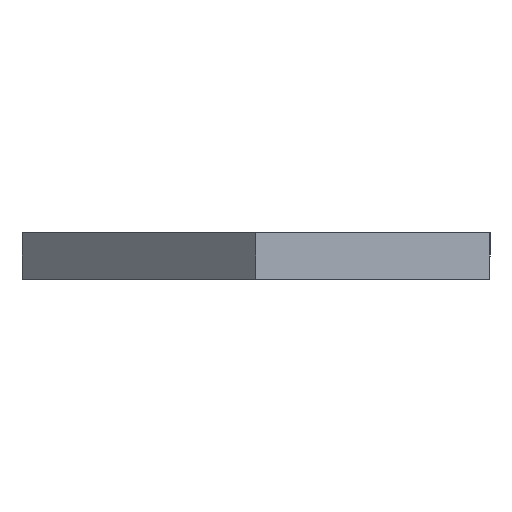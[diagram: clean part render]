
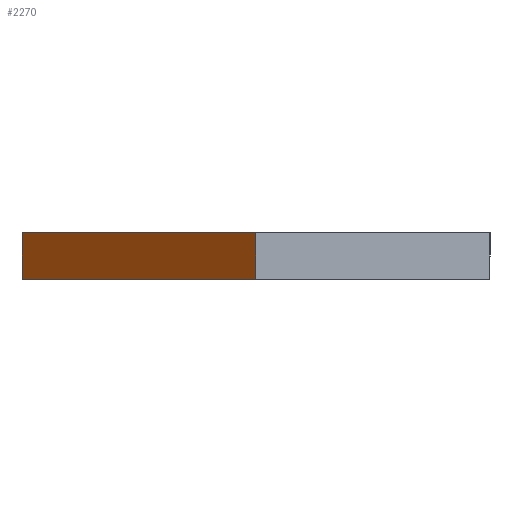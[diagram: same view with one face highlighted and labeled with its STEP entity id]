
A CAD part, left-side view. The second image highlights one B-rep face of the part: STEP entity #2270.
In plain terms, the highlighted planar face has unit normal (-0.707, 0.707, 0).
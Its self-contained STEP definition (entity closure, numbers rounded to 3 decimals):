
#18 = EDGE_CURVE ( 'NONE', #475, #426, #1946, .T. ) ;
#163 = EDGE_CURVE ( 'NONE', #392, #426, #1937, .T. ) ;
#166 = EDGE_CURVE ( 'NONE', #392, #473, #1932, .T. ) ;
#255 = LINE ( 'NONE', #1628, #281 ) ;
#281 = VECTOR ( 'NONE', #1627, 1000. ) ;
#313 = EDGE_LOOP ( 'NONE', ( #750, #798, #784, #776 ) ) ;
#392 = VERTEX_POINT ( 'NONE', #1558 ) ;
#426 = VERTEX_POINT ( 'NONE', #1500 ) ;
#473 = VERTEX_POINT ( 'NONE', #1610 ) ;
#475 = VERTEX_POINT ( 'NONE', #1567 ) ;
#750 = ORIENTED_EDGE ( 'NONE', *, *, #166, .T. ) ;
#776 = ORIENTED_EDGE ( 'NONE', *, *, #163, .F. ) ;
#784 = ORIENTED_EDGE ( 'NONE', *, *, #18, .T. ) ;
#798 = ORIENTED_EDGE ( 'NONE', *, *, #2172, .T. ) ;
#992 = FACE_OUTER_BOUND ( 'NONE', #313, .T. ) ;
#1084 = CARTESIAN_POINT ( 'NONE',  ( -118.694, 0., 0. ) ) ;
#1088 = DIRECTION ( 'NONE',  ( 0., 0., 1. ) ) ;
#1391 = DIRECTION ( 'NONE',  ( -0.707, -0.707, 0. ) ) ;
#1415 = CARTESIAN_POINT ( 'NONE',  ( -118.694, 0., 2. ) ) ;
#1438 = DIRECTION ( 'NONE',  ( 0., 0., -1. ) ) ;
#1454 = CARTESIAN_POINT ( 'NONE',  ( -108.694, 10., 2. ) ) ;
#1500 = CARTESIAN_POINT ( 'NONE',  ( -118.694, 0., 2. ) ) ;
#1558 = CARTESIAN_POINT ( 'NONE',  ( -108.694, 10., 2. ) ) ;
#1567 = CARTESIAN_POINT ( 'NONE',  ( -118.694, 0., 0. ) ) ;
#1610 = CARTESIAN_POINT ( 'NONE',  ( -108.694, 10., 0. ) ) ;
#1627 = DIRECTION ( 'NONE',  ( -0.707, -0.707, 0. ) ) ;
#1628 = CARTESIAN_POINT ( 'NONE',  ( 0., 118.694, 0. ) ) ;
#1822 = DIRECTION ( 'NONE',  ( -0.707, 0.707, 0. ) ) ;
#1833 = CARTESIAN_POINT ( 'NONE',  ( -118.694, 0., 0. ) ) ;
#1836 = DIRECTION ( 'NONE',  ( -0.707, -0.707, 0. ) ) ;
#1846 = PLANE ( 'NONE',  #2088 ) ;
#1928 = VECTOR ( 'NONE', #1438, 1000. ) ;
#1930 = VECTOR ( 'NONE', #1391, 1000. ) ;
#1932 = LINE ( 'NONE', #1454, #1928 ) ;
#1937 = LINE ( 'NONE', #1415, #1930 ) ;
#1946 = LINE ( 'NONE', #1084, #1962 ) ;
#1962 = VECTOR ( 'NONE', #1088, 1000. ) ;
#2088 = AXIS2_PLACEMENT_3D ( 'NONE', #1833, #1822, #1836 ) ;
#2172 = EDGE_CURVE ( 'NONE', #473, #475, #255, .T. ) ;
#2270 = ADVANCED_FACE ( 'NONE', ( #992 ), #1846, .T. ) ;
